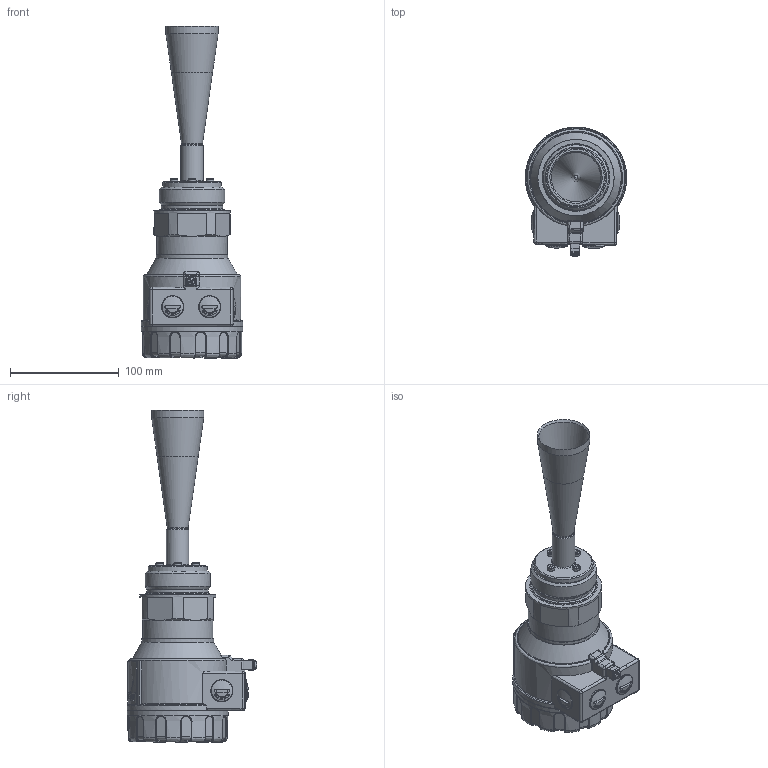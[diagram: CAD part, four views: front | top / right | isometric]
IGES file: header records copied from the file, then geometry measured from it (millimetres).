
Global section: file name: WES_150_MŰ,; native system: Autodesk Inventor 2015; preprocessor: unknown; author: aantal; date: 20150306.114215; units: millimetre
Bounding box: 92.98 x 119.27 x 304.76 mm (x, y, z)
Volume: 938007.3 mm3; surface area: 128667.6 mm2
Topology: 16 solids, 17 shells, 1343 faces, 3360 edges, 2091 vertices
Faces by surface type: bspline 1343
